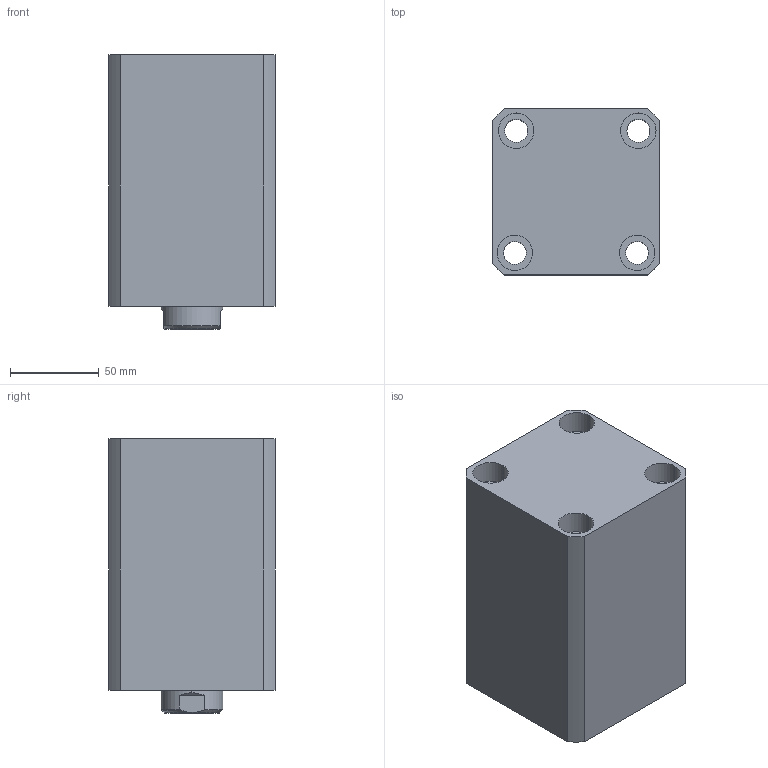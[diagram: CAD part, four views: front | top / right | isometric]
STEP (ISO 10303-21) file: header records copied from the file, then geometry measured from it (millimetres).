
FILE_DESCRIPTION (( 'STEP AP214' ), '1' );
FILE_NAME ('chtb-sdma63x75n_asm.STEP', '2018-05-16T02:36:05', ( 'Windows' ), ( 'Microsoft' ), 'SwSTEP 2.0', 'SolidWorks 2015', '' );
FILE_SCHEMA (( 'AUTOMOTIVE_DESIGN' ));
Length unit declared in the file: millimetre
Products named in the file (4): CHTB-63QG; chtb-sdma63x75n_asm; CHTB-SDMA63X75NBT; CHTB63X75NHSG
Assembly tree (3 placements, depth 2):
  chtb-sdma63x75n_asm
    CHTB-63QG
    CHTB63X75NHSG
    CHTB-SDMA63X75NBT
Bounding box: 94 x 94 x 155 mm (x, y, z)
Volume: 986705.6 mm3; surface area: 166787.6 mm2
Topology: 3 solids, 3 shells, 165 faces, 472 edges, 321 vertices
Faces by surface type: cylinder 107, plane 31, bspline 12, cone 8, torus 7
Entity records: 17727 total; most frequent: CARTESIAN_POINT 13576, ORIENTED_EDGE 932, DIRECTION 716, EDGE_CURVE 466, VERTEX_POINT 321, AXIS2_PLACEMENT_3D 288, EDGE_LOOP 197, FACE_OUTER_BOUND 165
